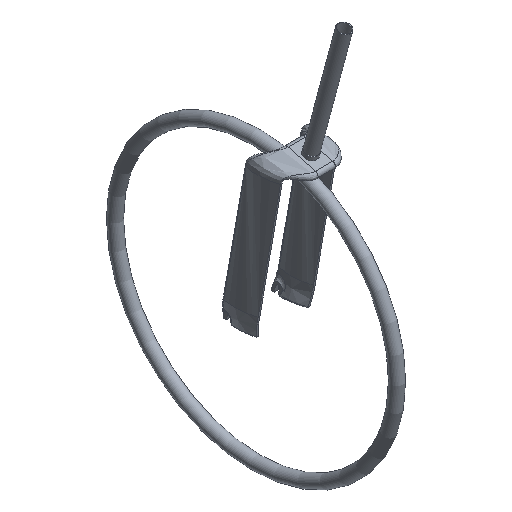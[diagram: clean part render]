
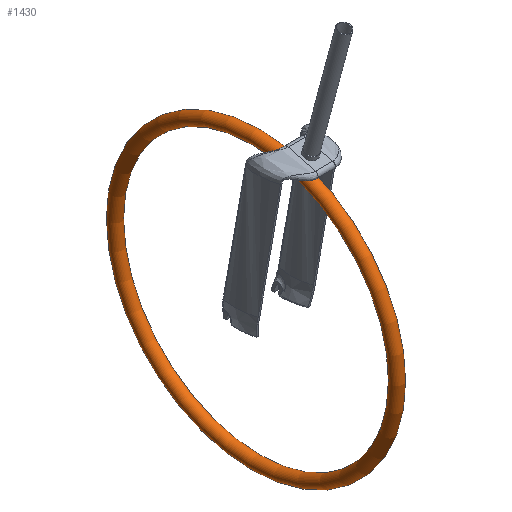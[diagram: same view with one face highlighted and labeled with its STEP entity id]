
A CAD part, isometric view. The second image highlights one B-rep face of the part: STEP entity #1430.
In plain terms, the highlighted toroidal (fillet/blend) face has major radius 325 mm and minor radius 14 mm.
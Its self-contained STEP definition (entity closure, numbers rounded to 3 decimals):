
#13=TOROIDAL_SURFACE('',#1548,325.,14.);
#257=FACE_OUTER_BOUND('',#343,.T.);
#343=EDGE_LOOP('',(#1330,#1331,#1332,#1333));
#542=CIRCLE('',#1549,14.);
#543=CIRCLE('',#1550,311.);
#682=VERTEX_POINT('',#5613);
#898=EDGE_CURVE('',#682,#682,#542,.T.);
#899=EDGE_CURVE('',#682,#682,#543,.T.);
#1330=ORIENTED_EDGE('',*,*,#898,.F.);
#1331=ORIENTED_EDGE('',*,*,#899,.T.);
#1332=ORIENTED_EDGE('',*,*,#898,.T.);
#1333=ORIENTED_EDGE('',*,*,#899,.F.);
#1430=ADVANCED_FACE('',(#257),#13,.T.);
#1548=AXIS2_PLACEMENT_3D('',#5612,#1826,#1827);
#1549=AXIS2_PLACEMENT_3D('',#5614,#1828,#1829);
#1550=AXIS2_PLACEMENT_3D('',#5615,#1830,#1831);
#1826=DIRECTION('center_axis',(1.,0.,0.));
#1827=DIRECTION('ref_axis',(0.,0.,-1.));
#1828=DIRECTION('center_axis',(0.,-1.,0.));
#1829=DIRECTION('ref_axis',(0.,0.,
1.));
#1830=DIRECTION('center_axis',(-1.,0.,0.));
#1831=DIRECTION('ref_axis',(0.,0.,-1.));
#5612=CARTESIAN_POINT('Origin',(0.,124.482,-353.663));
#5613=CARTESIAN_POINT('',(0.,124.482,-42.663));
#5614=CARTESIAN_POINT('Origin',(0.,124.482,
-28.663));
#5615=CARTESIAN_POINT('Origin',(0.,124.482,
-353.663));
